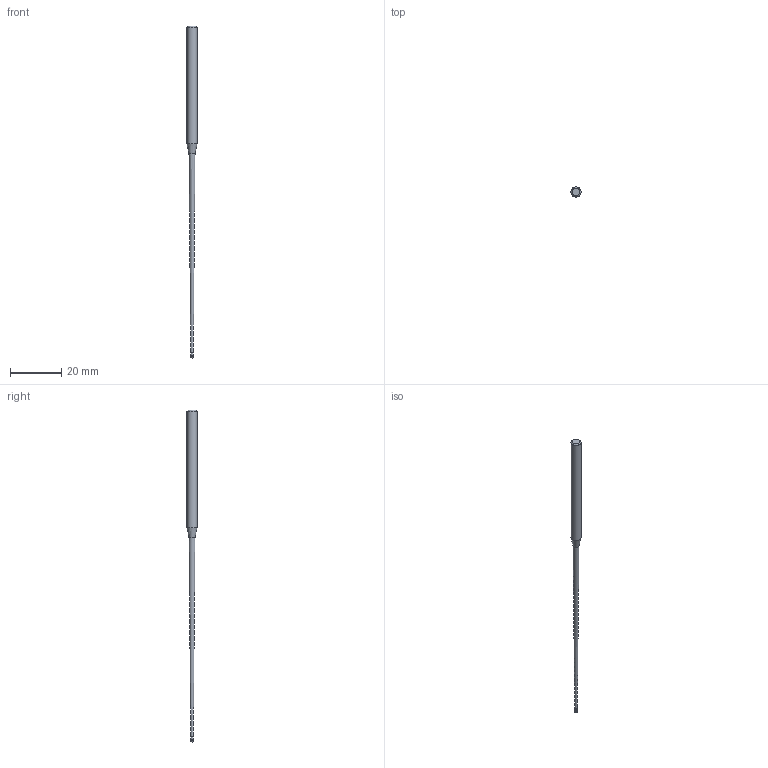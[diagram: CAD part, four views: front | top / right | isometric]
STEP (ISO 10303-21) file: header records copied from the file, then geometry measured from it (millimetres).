
FILE_DESCRIPTION((''),'2;1');
FILE_NAME('C:\Users\nsx150\AppData\Local\Temp\Mastercam 2021\SNAKH10GOD\TEMP.step','2021-10-21T13:32:10',(''),(''),'STEP Write','Mastercam 2021 ... CNC Software, Inc.','');
FILE_SCHEMA(('AUTOMOTIVE_DESIGN'));
Length unit declared in the file: millimetre
Products named in the file (1): None
Bounding box: 4 x 4 x 130 mm (x, y, z)
Volume: 792.2 mm3; surface area: 1045.4 mm2
Topology: 2 solids, 2 shells, 10 faces, 16 edges, 9 vertices
Faces by surface type: plane 3, cylinder 3, cone 3, sphere 1
Full cylindrical faces by diameter (mm): 0.985 x1, 1 x1, 4 x1
Entity records: 232 total; most frequent: DIRECTION 40, CARTESIAN_POINT 28, AXIS2_PLACEMENT_3D 20, ORIENTED_EDGE 16, EDGE_LOOP 16, STYLED_ITEM 13, ADVANCED_FACE 10, FACE_BOUND 9
